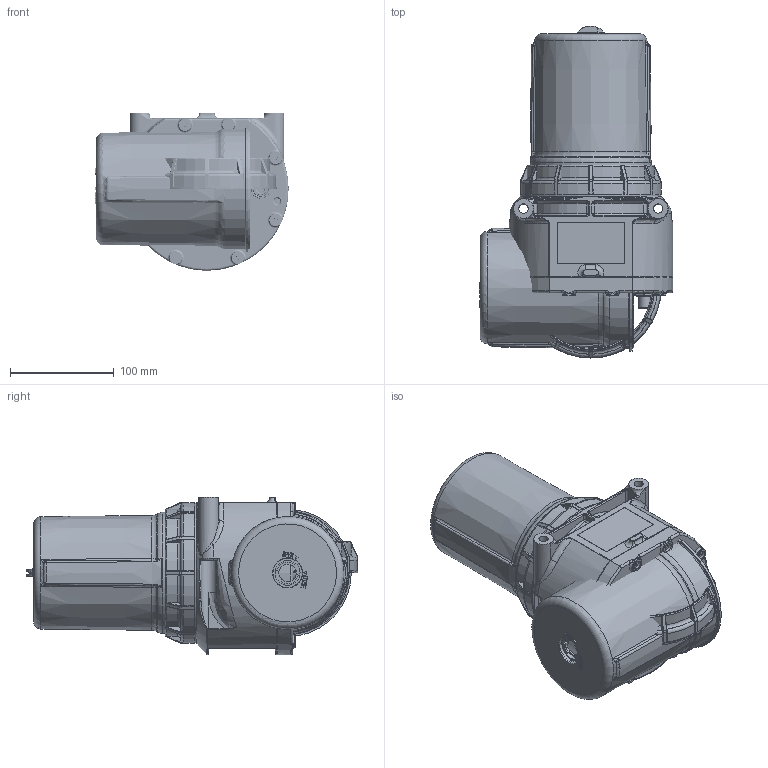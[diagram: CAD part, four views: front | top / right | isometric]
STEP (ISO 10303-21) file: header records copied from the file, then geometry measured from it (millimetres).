
FILE_DESCRIPTION( ( 'Unknown' ), '1' );
FILE_NAME( 'C:/02 KB-S/01 Triboserv/FlexxPump/600088_FlexxPump 8-800/3D Daten/ZOF 600088_1 Zusammenbau.stp', 'Unknown', ( 'Unknown' ), ( 'Unknown' ), 'XStep 1.0', 'Unknown', ' ' );
FILE_SCHEMA( ( 'CONFIG_CONTROL_DESIGN' ) );
Length unit declared in the file: millimetre
Products named in the file (23): Assem1; Assem2; Assem3; Assem4; 1; 2; 3; 4; 5; 6; 7; 8; 9; 10; 11; 12; 13; 14; 15; 16; 17; 18; 19
Bounding box: 186.6 x 320.68 x 152 mm (x, y, z)
Volume: 1116807.5 mm3; surface area: 819781.1 mm2
Topology: 38 solids, 40 shells, 5732 faces, 15048 edges, 9800 vertices
Faces by surface type: plane 3158, cylinder 1028, bspline 664, cone 334, torus 254, extrusion 252, sphere 42
Full cylindrical faces by diameter (mm): 0.8 x8, 1.6 x2, 4 x42, 4.2 x16, 4.3 x16, 5 x10, 6 x30, 8 x4, 8.4 x16, 8.5 x18, 8.566 x16, 9 x4, 9.728 x16, 10 x16, 11 x32, 11.8 x2, 12 x16, 12.816 x4, 13.5 x16, 15 x4, 15.04 x2, 15.5 x2, 17 x16, 22 x2, 24 x2, 27.9 x2, 102 x2, 117.8 x2, 119 x2, 123 x4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
Entity records: 116824 total; most frequent: CARTESIAN_POINT 50385, ORIENTED_EDGE 14054, DIRECTION 12283, EDGE_CURVE 7027, VERTEX_POINT 4729, AXIS2_PLACEMENT_3D 4468, EDGE_LOOP 3458, VECTOR 3347
